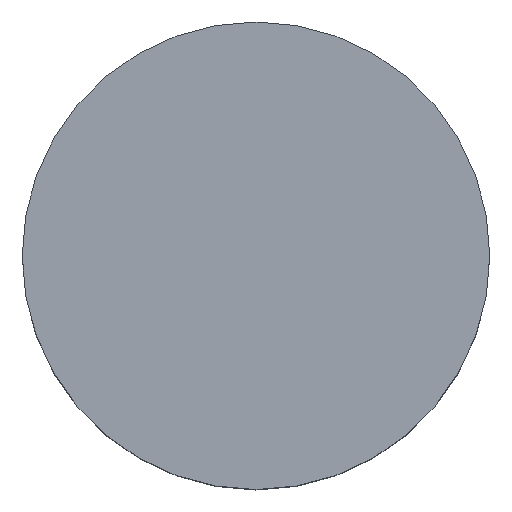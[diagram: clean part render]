
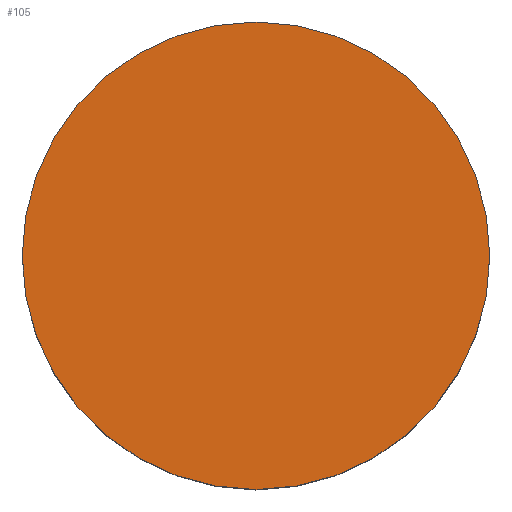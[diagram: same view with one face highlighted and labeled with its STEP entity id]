
A CAD part, top view. The second image highlights one B-rep face of the part: STEP entity #105.
In plain terms, the highlighted planar face has unit normal (0, 0, 1).
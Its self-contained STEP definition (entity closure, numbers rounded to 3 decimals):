
#21 = EDGE_CURVE('',#22,#22,#24,.T.);
#22 = VERTEX_POINT('',#23);
#23 = CARTESIAN_POINT('',(-5.2,-6.7,4.3));
#24 = SURFACE_CURVE('',#25,(#30,#42),.PCURVE_S1.);
#25 = CIRCLE('',#26,1.5);
#26 = AXIS2_PLACEMENT_3D('',#27,#28,#29);
#27 = CARTESIAN_POINT('',(-6.7,-6.7,4.3));
#28 = DIRECTION('',(0.,0.,1.));
#29 = DIRECTION('',(1.,0.,-0.));
#30 = PCURVE('',#31,#36);
#31 = CYLINDRICAL_SURFACE('',#32,1.5);
#32 = AXIS2_PLACEMENT_3D('',#33,#34,#35);
#33 = CARTESIAN_POINT('',(-6.7,-6.7,2.7));
#34 = DIRECTION('',(0.,0.,1.));
#35 = DIRECTION('',(1.,0.,-0.));
#36 = DEFINITIONAL_REPRESENTATION('',(#37),#41);
#37 = LINE('',#38,#39);
#38 = CARTESIAN_POINT('',(0.,1.6));
#39 = VECTOR('',#40,1.);
#40 = DIRECTION('',(1.,0.));
#41 = ( GEOMETRIC_REPRESENTATION_CONTEXT(2) 
PARAMETRIC_REPRESENTATION_CONTEXT() REPRESENTATION_CONTEXT('2D SPACE',''
  ) );
#42 = PCURVE('',#43,#48);
#43 = PLANE('',#44);
#44 = AXIS2_PLACEMENT_3D('',#45,#46,#47);
#45 = CARTESIAN_POINT('',(-6.7,-6.7,4.3));
#46 = DIRECTION('',(0.,0.,1.));
#47 = DIRECTION('',(1.,0.,-0.));
#48 = DEFINITIONAL_REPRESENTATION('',(#49),#53);
#49 = CIRCLE('',#50,1.5);
#50 = AXIS2_PLACEMENT_2D('',#51,#52);
#51 = CARTESIAN_POINT('',(0.,0.));
#52 = DIRECTION('',(1.,0.));
#53 = ( GEOMETRIC_REPRESENTATION_CONTEXT(2) 
PARAMETRIC_REPRESENTATION_CONTEXT() REPRESENTATION_CONTEXT('2D SPACE',''
  ) );
#105 = ADVANCED_FACE('',(#106),#43,.T.);
#106 = FACE_BOUND('',#107,.T.);
#107 = EDGE_LOOP('',(#108));
#108 = ORIENTED_EDGE('',*,*,#21,.T.);
